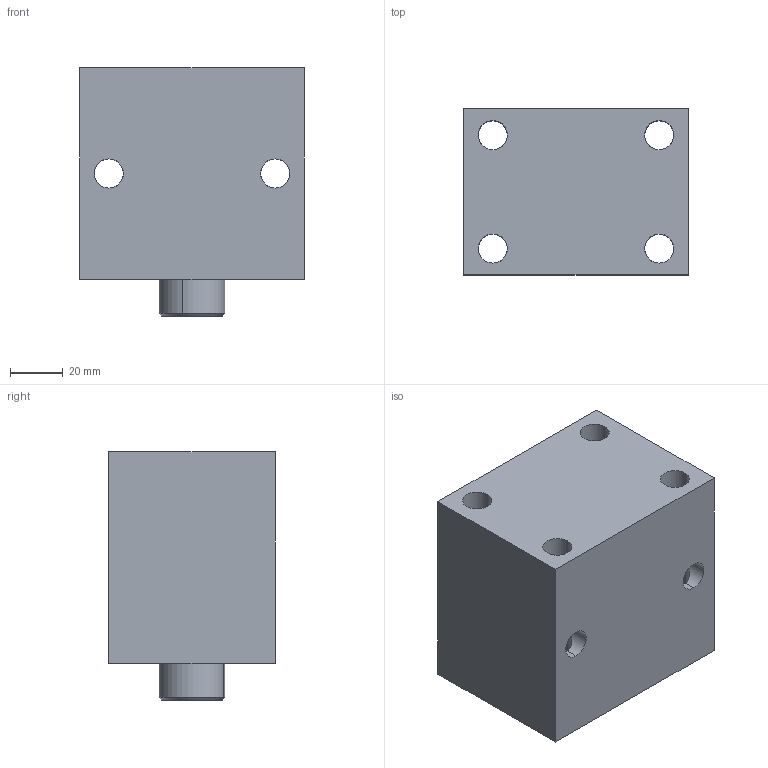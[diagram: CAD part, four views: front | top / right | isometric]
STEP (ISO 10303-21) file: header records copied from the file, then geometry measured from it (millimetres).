
FILE_DESCRIPTION (( 'STEP AP203' ), '1' );
FILE_NAME ('Block cylinder_B01C-325F.STEP', '2022-07-09T18:29:07', ( '' ), ( '' ), 'SwSTEP 2.0', 'SolidWorks 2017', '' );
FILE_SCHEMA (( 'CONFIG_CONTROL_DESIGN' ));
Length unit declared in the file: millimetre
Products named in the file (3): Block cylinder_B01C-325F; Body_325F_50ST; Piston_325F_50sT
Assembly tree (2 placements, depth 2):
  Block cylinder_B01C-325F
    Body_325F_50ST
    Piston_325F_50sT
Bounding box: 85 x 63 x 94 mm (x, y, z)
Volume: 396846.9 mm3; surface area: 59071 mm2
Topology: 2 solids, 2 shells, 347 faces, 952 edges, 621 vertices
Faces by surface type: bspline 158, plane 137, cylinder 44, cone 8
Entity records: 17639 total; most frequent: CARTESIAN_POINT 9669, ORIENTED_EDGE 1892, DIRECTION 1044, EDGE_CURVE 946, VERTEX_POINT 621, VECTOR 540, LINE 540, EDGE_LOOP 385
